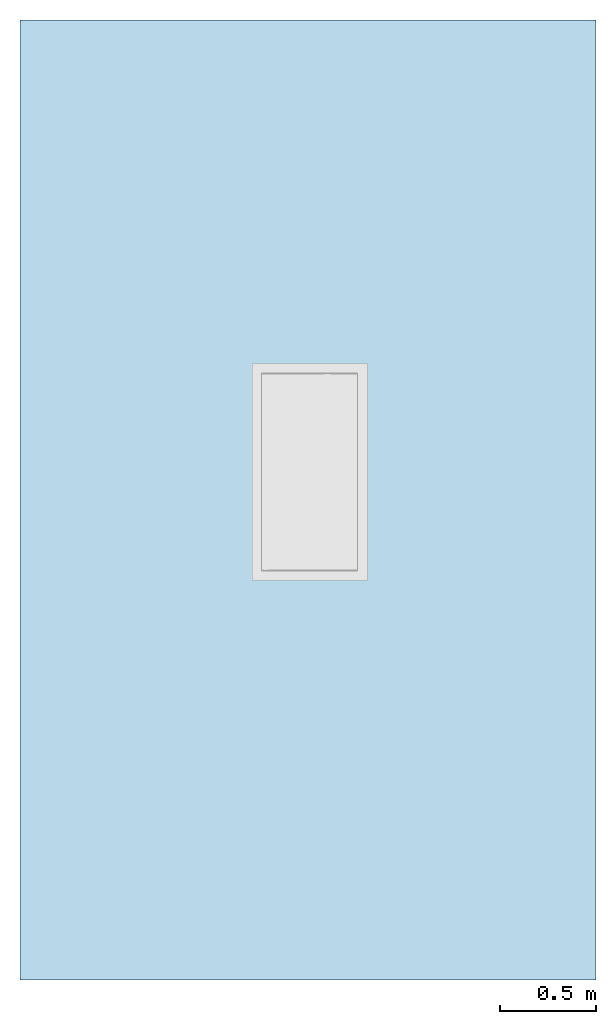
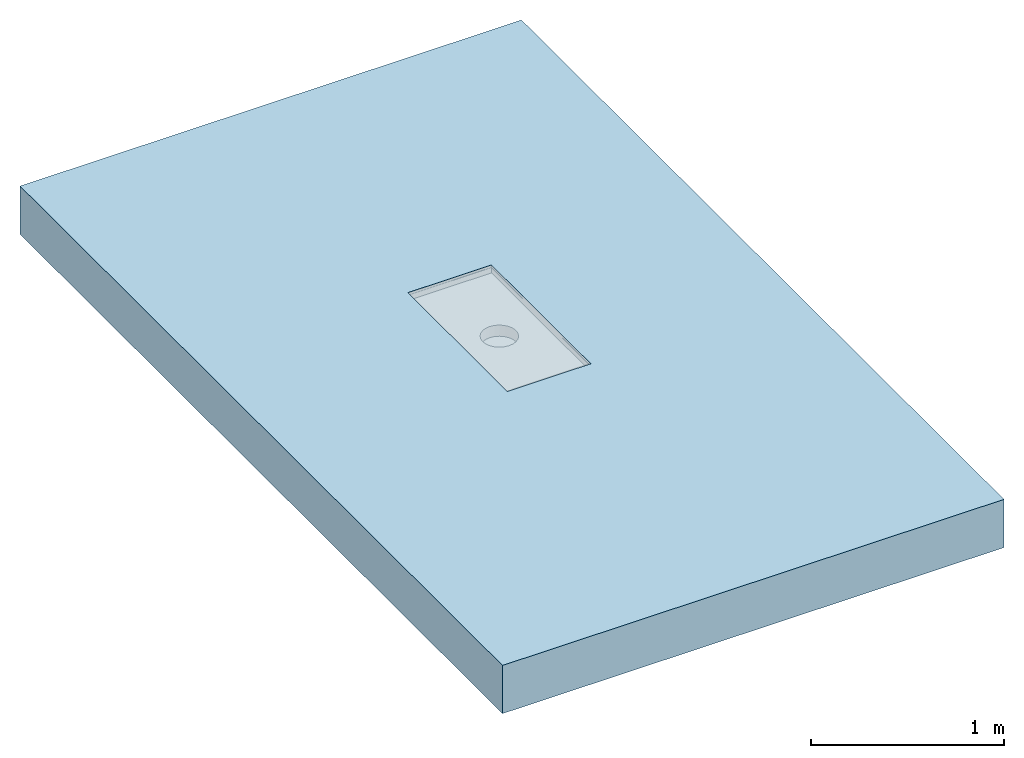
# One storey, incomplete: 1 slab, 1 opening.
"""IFC2X3 building model written with IfcOpenShell, lengths in millimetres."""

from ifc_helpers import new_model, entity, si_unit, converted_unit, derived_unit, direction, frame, frame_2d, origin, place, context, subcontext, project, spatial, rectangle, extrude, faceted_brep, material, layer, layer_set, layer_usage, element, save


model = new_model("IFC2X3")

# Units and contexts
model_context = context("Model", 3, precision=1e-05, world=origin(), true_north=direction((2.0, 6.12303176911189e-17, 1.0)))
context_of_model = context(None, 3, precision=1e-05, world=origin(), true_north=direction((2.0, 6.12303176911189e-17, 1.0)))
body_context = subcontext(model_context, "Body", "Model", "MODEL_VIEW")
ifc_project = project(units=[si_unit("LENGTHUNIT", "METRE", prefix="MILLI"), converted_unit("AREAUNIT", "SQUARE FOOT", entity("IfcRatioMeasure", 0.09290304), si_unit("AREAUNIT", "SQUARE_METRE"), dimensions=[2, 0, 0, 0, 0, 0, 0]), converted_unit("VOLUMEUNIT", "CUBIC FOOT", entity("IfcRatioMeasure", 0.028316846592), si_unit("VOLUMEUNIT", "CUBIC_METRE"), dimensions=[3, 0, 0, 0, 0, 0, 0]), converted_unit("PLANEANGLEUNIT", "DEGREE", entity("IfcRatioMeasure", 0.0174532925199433), si_unit("PLANEANGLEUNIT", "RADIAN"), dimensions=[0, 0, 0, 0, 0, 0, 0]), si_unit("MASSUNIT", "GRAM", prefix="KILO"), si_unit("TIMEUNIT", "SECOND"), si_unit("THERMODYNAMICTEMPERATUREUNIT", "KELVIN"), derived_unit("THERMALTRANSMITTANCEUNIT", [(si_unit("MASSUNIT", "GRAM", prefix="KILO"), 1), (si_unit("THERMODYNAMICTEMPERATUREUNIT", "KELVIN"), -1), (si_unit("TIMEUNIT", "SECOND"), -3)]), derived_unit("VOLUMETRICFLOWRATEUNIT", [(si_unit("LENGTHUNIT", "METRE"), 3), (si_unit("TIMEUNIT", "SECOND"), -1)]), si_unit("POWERUNIT", "WATT")], contexts=[model_context, context_of_model])

# Site, building, storey
site_placement = place(None, origin())
site = spatial("IfcSite", under=ifc_project, at=site_placement, Name="Default", CompositionType="ELEMENT")
building_placement = place(site_placement, origin())
building = spatial("IfcBuilding", under=site, at=building_placement, CompositionType="ELEMENT")
storey_placement = place(building_placement, origin())
storey = spatial("IfcBuildingStorey", under=building, at=storey_placement, Name="Level 1", CompositionType="ELEMENT", Elevation=0.0)

# Slab, opening
ifc_material = material(Name="Default Floor")
ifc_layer = layer(ifc_material, 304.8)
ifc_layer_set = layer_set([ifc_layer], Name="Floor:Generic - 12\"")
ifc_layer_usage = layer_usage(ifc_layer_set, "AXIS3", "POSITIVE", 0.0)
slab_placement = place(storey_placement, frame((-2592.42688678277, 381.838531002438, -304.8)))
slab = element("IfcSlab", 1, at=slab_placement, inside=storey, material=ifc_layer_usage, Name="Floor:Generic - 12\"", ObjectType="Floor:Generic - 12\"", PredefinedType="FLOOR", context=body_context, shape_type="SweptSolid", body=[
    extrude(rectangle(XDim=5000.0, YDim=3000.0, at=frame_2d((0.0, 0.0), x_axis=(0.0, -1.0))), frame((1500.0, 2500.0, 304.8), z_axis=(0.0, 0.0, -1.0), x_axis=(-1.0, 0.0, 0.0)), (0.0, 0.0, 1.0), 304.8),
])
opening_placement = place(slab_placement, frame((1208.95136669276, 2081.28039924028, 184.151793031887)))
element("IfcOpeningElement", 2, at=opening_placement, cuts=slab, ObjectType="Recess", context=body_context, shape_type="Brep", body=[
    faceted_brep([(50.0, 1080.0, 70.6482069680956), (50.0, 1080.0, 104.148206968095), (549.667309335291, 1080.0, 104.148206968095), (549.667309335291, 1080.0, 70.648206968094), (50.0, 1080.0, 105.648206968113), (50.0, 1080.0, 120.648206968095), (549.667309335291, 1080.0, 120.648206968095), (549.667309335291, 1080.0, 105.648206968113), (50.0, 50.0, 105.648206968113), (50.0, 50.0, 120.648206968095), (549.667309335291, 50.0, 105.648206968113), (549.667309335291, 50.0, 120.648206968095), (549.667309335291, 50.0, 70.648206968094), (549.667309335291, 50.0, 104.148206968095), (50.0, 50.0, 70.6482069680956), (50.0, 50.0, 104.148206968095), (249.833654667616, 478.397459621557, 70.6482069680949), (273.951750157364, 468.407417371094, 70.6482069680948), (229.122976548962, 494.289321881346, 70.648206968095), (299.833654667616, 465.0, 70.6482069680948), (199.833654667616, 565.0, 70.6482069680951), (203.241072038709, 539.118095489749, 70.6482069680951), (213.231114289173, 515.0, 70.648206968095), (325.715559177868, 468.407417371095, 70.6482069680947), (349.833654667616, 478.397459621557, 70.6482069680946), (370.544332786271, 494.289321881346, 70.6482069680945), (386.43619504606, 515.0, 70.6482069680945), (396.426237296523, 539.118095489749, 70.6482069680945), (399.833654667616, 565.0, 70.6482069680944), (213.231114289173, 615.0, 70.648206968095), (203.24107203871, 590.881904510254, 70.6482069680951), (229.122976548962, 635.710678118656, 70.648206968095), (249.833654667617, 651.602540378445, 70.6482069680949), (273.951750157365, 661.592582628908, 70.6482069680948), (299.833654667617, 665.0, 70.6482069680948), (396.426237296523, 590.881904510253, 70.6482069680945), (386.43619504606, 615.0, 70.6482069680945), (349.833654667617, 651.602540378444, 70.6482069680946), (325.715559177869, 661.592582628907, 70.6482069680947), (370.544332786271, 635.710678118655, 70.6482069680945), (299.833654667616, 465.0, 0.0), (325.715559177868, 661.592582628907, 0.0), (370.544332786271, 494.289321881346, 0.0), (249.833654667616, 478.397459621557, 0.0), (249.833654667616, 651.602540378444, 0.0), (273.951750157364, 468.407417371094, 0.0), (229.122976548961, 494.289321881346, 0.0), (229.122976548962, 635.710678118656, 0.0), (213.231114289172, 515.0, 0.0), (213.231114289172, 615.0, 0.0), (325.715559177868, 468.407417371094, 0.0), (349.833654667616, 478.397459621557, 0.0), (396.426237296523, 539.118095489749, 0.0), (386.43619504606, 515.0, 0.0), (370.544332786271, 635.710678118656, 0.0), (396.426237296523, 590.881904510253, 0.0), (399.833654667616, 565.0, 0.0), (203.241072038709, 590.881904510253, 0.0), (203.241072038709, 539.118095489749, 0.0), (299.833654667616, 665.0, 0.0), (273.951750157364, 661.592582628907, 0.0), (386.43619504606, 615.0, 0.0), (349.833654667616, 651.602540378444, 0.0), (199.833654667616, 565.0, 0.0), (0.0, 0.0, 104.148206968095), (599.667309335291, 0.0, 104.148206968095), (0.0, 1130.0, 104.148206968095), (599.667309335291, 1130.0, 104.148206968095), (0.0, 1130.0, 105.648206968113), (599.667309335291, 1130.0, 105.648206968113), (0.0, 0.0, 105.648206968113), (599.667309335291, 0.0, 105.648206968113)], [[[0, 1, 2]], [[2, 3, 0]], [[4, 5, 6]], [[6, 7, 4]], [[8, 9, 4]], [[5, 4, 9]], [[10, 11, 9]], [[9, 8, 10]], [[12, 13, 14]], [[15, 14, 13]], [[11, 10, 6]], [[7, 6, 10]], [[13, 12, 3]], [[3, 2, 13]], [[14, 15, 1]], [[1, 0, 14]], [[9, 11, 6]], [[6, 5, 9]], [[14, 16, 17]], [[16, 14, 18]], [[14, 17, 19]], [[20, 21, 14]], [[22, 18, 14]], [[21, 22, 14]], [[14, 0, 20]], [[12, 19, 23]], [[19, 12, 14]], [[12, 23, 24]], [[24, 25, 12]], [[26, 27, 12]], [[25, 26, 12]], [[12, 27, 28]], [[29, 30, 0]], [[31, 29, 0]], [[32, 0, 33]], [[0, 32, 31]], [[34, 33, 0]], [[0, 3, 34]], [[30, 20, 0]], [[35, 36, 3]], [[28, 35, 3]], [[37, 38, 3]], [[39, 3, 36]], [[3, 39, 37]], [[38, 34, 3]], [[28, 3, 12]], [[40, 41, 42]], [[43, 44, 45]], [[45, 41, 40]], [[46, 47, 43]], [[48, 49, 46]], [[50, 42, 51]], [[50, 40, 42]], [[42, 52, 53]], [[42, 54, 52]], [[52, 55, 56]], [[57, 48, 58]], [[49, 48, 57]], [[46, 49, 47]], [[45, 44, 41]], [[43, 47, 44]], [[59, 44, 60]], [[54, 61, 52]], [[55, 52, 61]], [[42, 62, 54]], [[42, 41, 62]], [[44, 59, 41]], [[57, 58, 63]], [[55, 35, 56]], [[61, 36, 55]], [[38, 41, 59]], [[54, 39, 61]], [[55, 36, 35]], [[35, 28, 56]], [[62, 37, 39]], [[62, 41, 37]], [[41, 38, 37]], [[39, 36, 61]], [[39, 54, 62]], [[59, 34, 38]], [[33, 60, 44]], [[47, 32, 44]], [[29, 49, 57]], [[47, 49, 31]], [[30, 57, 63]], [[60, 33, 34]], [[44, 32, 33]], [[47, 31, 32]], [[49, 29, 31]], [[30, 29, 57]], [[63, 20, 30]], [[60, 34, 59]], [[58, 21, 63]], [[48, 22, 58]], [[48, 46, 18]], [[46, 43, 16]], [[58, 22, 21]], [[21, 20, 63]], [[19, 17, 45]], [[17, 16, 43]], [[18, 46, 16]], [[18, 22, 48]], [[45, 17, 43]], [[45, 40, 19]], [[23, 50, 51]], [[42, 24, 51]], [[26, 53, 52]], [[42, 53, 25]], [[27, 52, 56]], [[50, 23, 19]], [[51, 24, 23]], [[42, 25, 24]], [[53, 26, 25]], [[27, 26, 52]], [[56, 28, 27]], [[50, 19, 40]], [[64, 15, 13]], [[15, 64, 1]], [[65, 13, 2]], [[13, 65, 64]], [[1, 66, 2]], [[66, 1, 64]], [[2, 67, 65]], [[67, 2, 66]], [[68, 4, 7]], [[4, 68, 8]], [[69, 7, 10]], [[7, 69, 68]], [[8, 70, 10]], [[70, 8, 68]], [[10, 71, 69]], [[71, 10, 70]], [[70, 68, 66]], [[66, 64, 70]], [[71, 70, 64]], [[64, 65, 71]], [[69, 71, 65]], [[65, 67, 69]], [[68, 69, 67]], [[67, 66, 68]]]),
])

save(model, "model.ifc")
